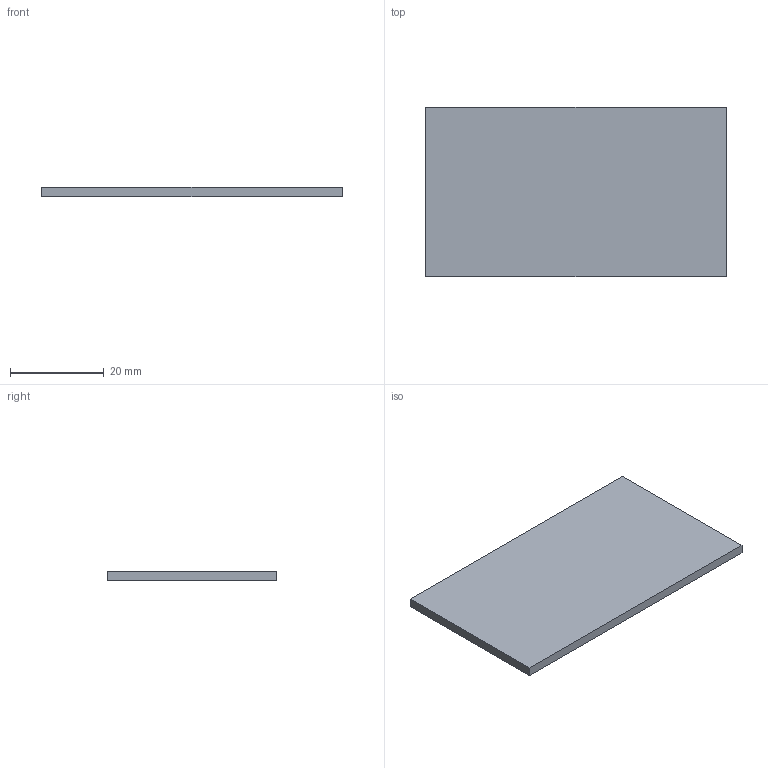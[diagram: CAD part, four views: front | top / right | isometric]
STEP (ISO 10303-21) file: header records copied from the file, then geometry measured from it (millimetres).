
FILE_DESCRIPTION(('Open CASCADE Model'),'2;1');
FILE_NAME('Open CASCADE Shape Model','2026-09-06T11:46:00',('Author'),( 'Open CASCADE'),'Open CASCADE STEP processor 7.7','Open CASCADE 7.7' ,'Unknown');
FILE_SCHEMA(('AUTOMOTIVE_DESIGN { 1 0 10303 214 1 1 1 1 }'));
Length unit declared in the file: millimetre
Products named in the file (1): Open CASCADE STEP translator 7.7 18
Bounding box: 64 x 36 x 2 mm (x, y, z)
Volume: 3906.2 mm3; surface area: 5095.5 mm2
Topology: 1 solids, 1 shells, 15 faces, 36 edges, 24 vertices
Faces by surface type: plane 11, cylinder 4
Entity records: 903 total; most frequent: CARTESIAN_POINT 170, DIRECTION 131, LINE 76, VECTOR 76, ORIENTED_EDGE 72, PCURVE 72, DEFINITIONAL_REPRESENTATION 72, EDGE_CURVE 36
